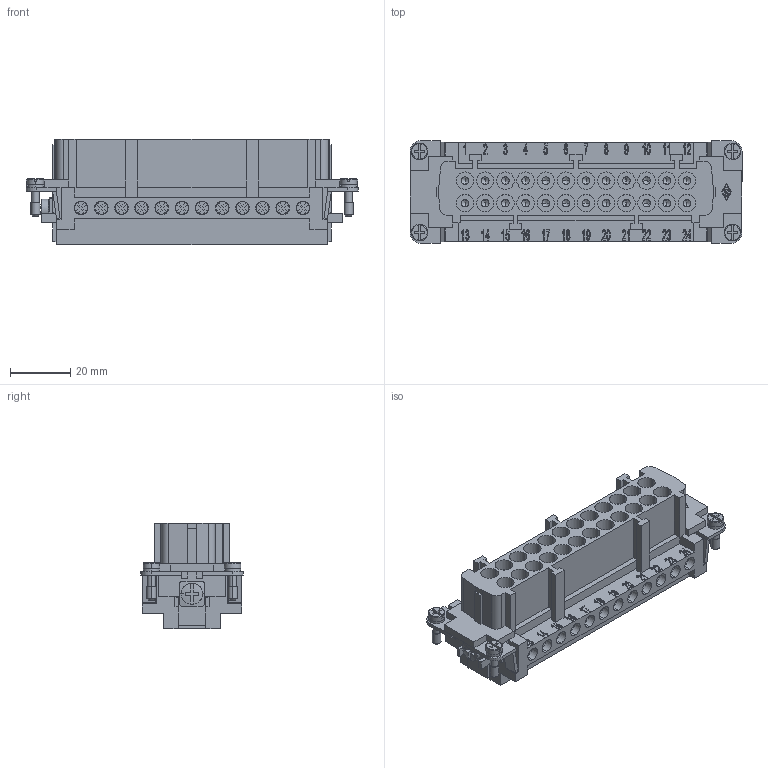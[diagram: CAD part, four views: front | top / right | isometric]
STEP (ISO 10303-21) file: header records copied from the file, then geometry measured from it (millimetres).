
FILE_DESCRIPTION (( 'STEP AP203' ), '1' );
FILE_NAME ('KEI24HO.STEP', '2013-05-10T08:51:11', ( '' ), ( '' ), 'SwSTEP 2.0', 'SolidWorks 2010', '' );
FILE_SCHEMA (( 'CONFIG_CONTROL_DESIGN' ));
Products named in the file (1): KEI24HO
Bounding box: 110.3 x 34 x 35 mm (x, y, z)
Volume: 57365.6 mm3; surface area: 39130 mm2
Topology: 3 solids, 3 shells, 2559 faces, 6890 edges, 4535 vertices
Faces by surface type: plane 1535, bspline 555, cylinder 405, cone 56, torus 6, sphere 2
Entity records: 88744 total; most frequent: CARTESIAN_POINT 27935, ORIENTED_EDGE 13680, DIRECTION 10664, EDGE_CURVE 6840, VERTEX_POINT 4535, VECTOR 4480, LINE 4480, AXIS2_PLACEMENT_3D 3092
